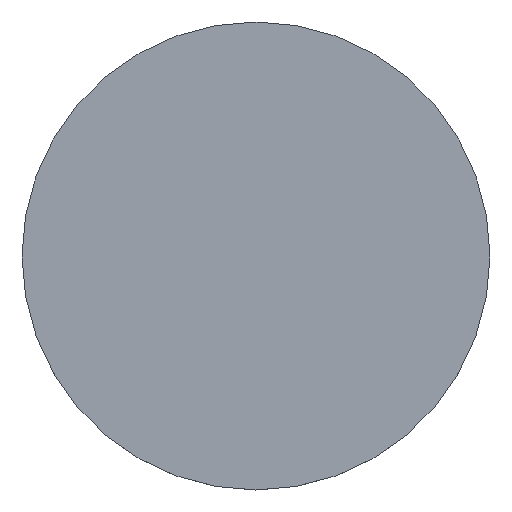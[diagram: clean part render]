
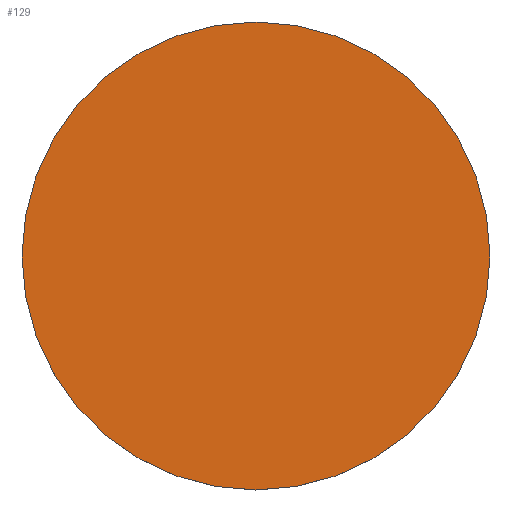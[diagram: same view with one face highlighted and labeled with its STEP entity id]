
A CAD part, top view. The second image highlights one B-rep face of the part: STEP entity #129.
In plain terms, the highlighted planar face has unit normal (0, 0, 1).
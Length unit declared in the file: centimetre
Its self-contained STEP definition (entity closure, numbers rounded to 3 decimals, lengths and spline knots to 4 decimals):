
#112=VERTEX_POINT('',#292);
#114=EDGE_CURVE('',#112,#112,#172,.T.);
#118=ORIENTED_EDGE('',*,*,#114,.F.);
#122=EDGE_LOOP('',(#118));
#126=FACE_BOUND('',#122,.T.);
#129=ADVANCED_FACE('',(#126),#204,.T.);
#172=CIRCLE('',#190,1.5);
#190=AXIS2_PLACEMENT_3D('',#291,#265,#266);
#192=AXIS2_PLACEMENT_3D('',#295,#269,$);
#204=PLANE('',#192);
#265=DIRECTION('',(0.,0.,-1.));
#266=DIRECTION('',(1.5,0.,0.));
#269=DIRECTION('',(0.,0.,1.));
#291=CARTESIAN_POINT('',(0.,0.,0.15));
#292=CARTESIAN_POINT('',(1.5,0.,0.15));
#295=CARTESIAN_POINT('',(0.,0.,0.15));
